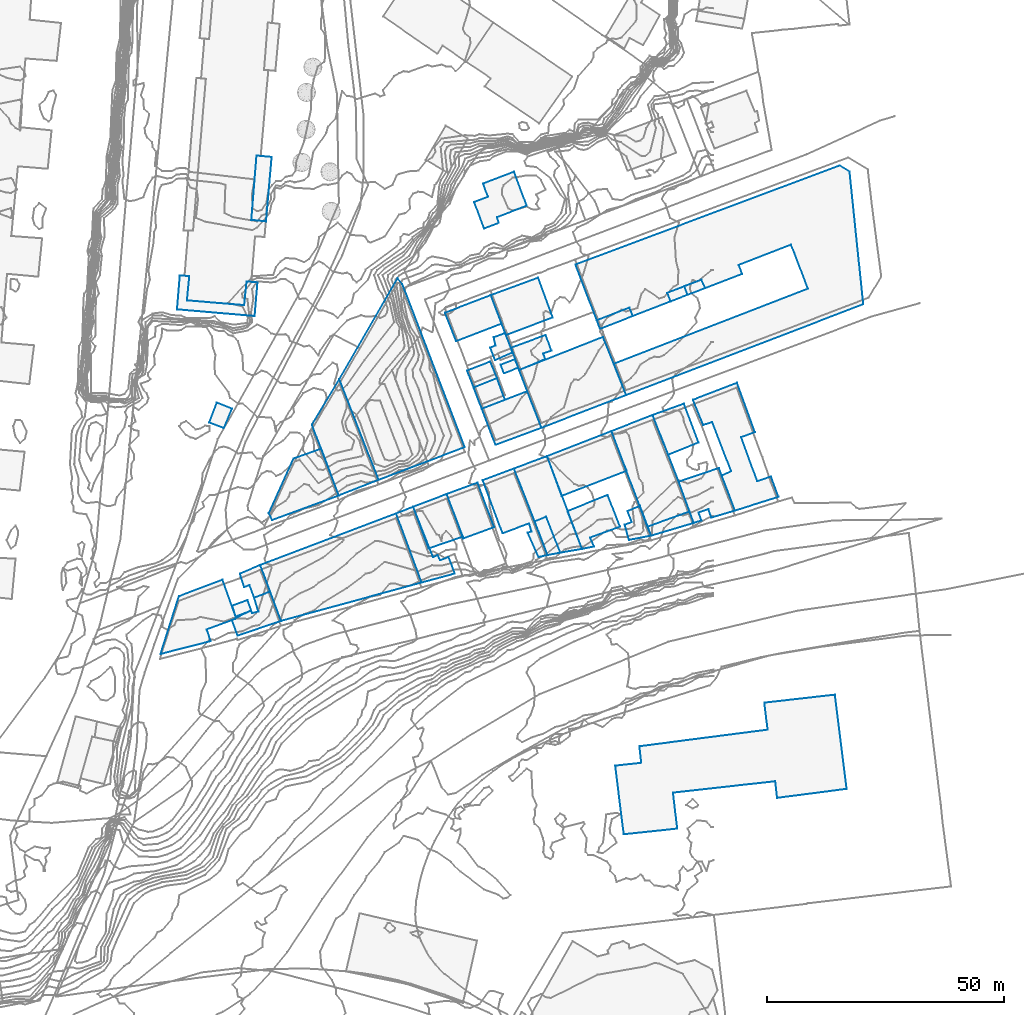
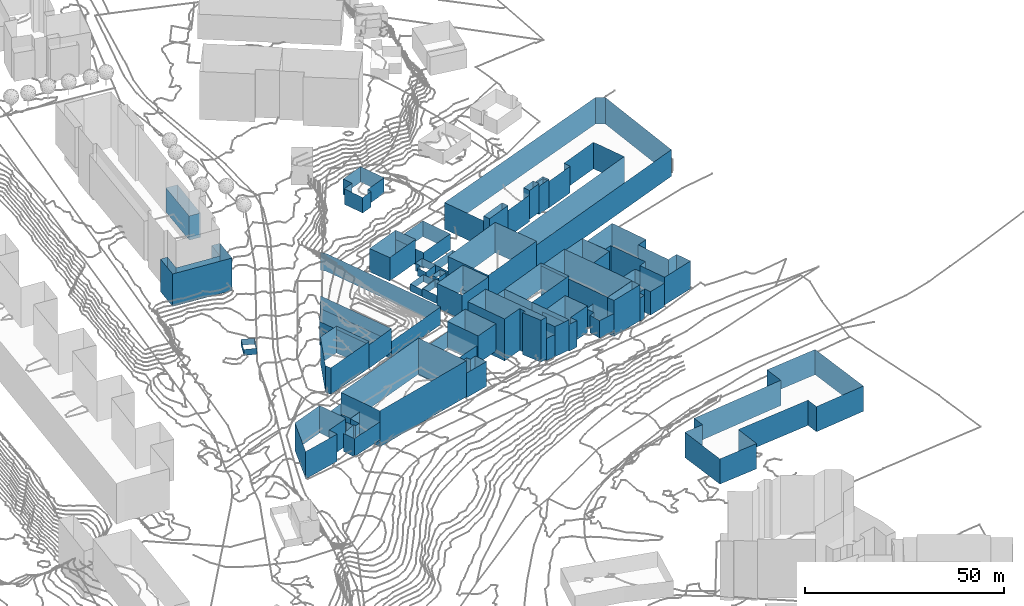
# Not in any storey, part 55 of 419: 40 walls.
"""IFC2X3 model written with IfcOpenShell, lengths in metres."""

from ifc_helpers import new_model, si_unit, frame, origin_with_axes, place, context, subcontext, project, faceted_brep, element, save


model = new_model("IFC2X3")

# Units and contexts
model_context = context("Model", 3, precision=1e-05, world=origin_with_axes())
body_context = subcontext(model_context, "Body", "Model", "MODEL_VIEW")
ifc_project = project(units=[si_unit("AREAUNIT", "SQUARE_METRE"), si_unit("LENGTHUNIT", "METRE")], contexts=[model_context])

# Walls
wall_1_placement = place(None, frame((919.7920204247, 707.8976909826, 81.4396011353), z_axis=(0.0, 0.0, 1.0), x_axis=(1.0, 0.0, 0.0)))
element("IfcWall", 1, at=wall_1_placement, Name="Mur 0", context=body_context, shape_type="Brep", body=[
    faceted_brep([(0.0, 0.0, 7.1603988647), (9.7000000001, 3.7000000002, 7.1603988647), (0.0, 0.0, 0.0), (9.7000000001, 3.7000000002, 0.0), (2.4, -6.0, 7.1603988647), (2.4, -6.0, 0.0), (12.0, -2.2999999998, 7.1603988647), (12.0, -2.2999999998, 0.0)], [[[0, 1, 2]], [[2, 1, 3]], [[4, 0, 5]], [[5, 0, 2]], [[1, 6, 3]], [[3, 6, 7]], [[6, 4, 7]], [[7, 4, 5]]]),
])
wall_2_placement = place(None, frame((874.7920204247, 642.9976909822, 81.5520004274), z_axis=(0.0, 0.0, 1.0), x_axis=(1.0, 0.0, 0.0)))
element("IfcWall", 2, at=wall_2_placement, Name="Mur 0", context=body_context, shape_type="Brep", body=[
    faceted_brep([(8.1000000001, 6.0, 5.5479995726), (10.4, -0.1999999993, 5.5479995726), (8.1000000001, 6.0, 0.0), (10.4, -0.1999999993, 0.0), (4.7000000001, 4.7000000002, 5.5479995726), (4.7000000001, 4.7000000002, 0.0), (5.6000000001, 1.8000000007, 5.5479995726), (5.6000000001, 1.8000000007, 0.0), (4.3, 1.4000000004, 5.5479995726), (4.3, 1.4000000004, 0.0), (4.1000000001, 2.0, 5.5479995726), (4.1000000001, 2.0, 0.0), (0.0, 0.0, 5.5479995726), (0.0, 0.0, 0.0), (1.2000000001, -3.2999999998, 5.5479995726), (1.2000000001, -3.2999999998, 0.0)], [[[0, 1, 2]], [[2, 1, 3]], [[4, 0, 5]], [[5, 0, 2]], [[6, 4, 7]], [[7, 4, 5]], [[8, 6, 9]], [[9, 6, 7]], [[10, 8, 11]], [[11, 8, 9]], [[12, 10, 13]], [[13, 10, 11]], [[1, 14, 3]], [[3, 14, 15]], [[14, 12, 15]], [[15, 12, 13]]]),
])
wall_3_placement = place(None, frame((920.1920204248, 669.5976909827, 80.9935986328), z_axis=(0.0, 0.0, 1.0), x_axis=(1.0, 0.0, 0.0)))
element("IfcWall", 3, at=wall_3_placement, Name="Mur 0", context=body_context, shape_type="Brep", body=[
    faceted_brep([(0.0, 0.0, 8.4064013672), (6.5, 2.3999999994, 8.4064013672), (0.0, 0.0, 0.0), (6.5, 2.3999999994, 0.0), (3.5, -9.4000000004, 8.4064013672), (3.5, -9.4000000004, 0.0), (10.0, -7.0, 8.4064013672), (10.0, -7.0, 0.0)], [[[0, 1, 2]], [[2, 1, 3]], [[4, 0, 5]], [[5, 0, 2]], [[1, 6, 3]], [[3, 6, 7]], [[6, 4, 7]], [[7, 4, 5]]]),
])
wall_4_placement = place(None, frame((927.7920204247, 672.4976909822, 78.1616983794), z_axis=(0.0, 0.0, 1.0), x_axis=(1.0, 0.0, 0.0)))
element("IfcWall", 4, at=wall_4_placement, Name="Mur 0", context=body_context, shape_type="Brep", body=[
    faceted_brep([(0.0, 0.0, 12.8383016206), (6.6000000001, 2.5, 12.8383016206), (0.0, 0.0, 0.0), (6.6000000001, 2.5, 0.0), (4.2000000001, -11.1999999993, 12.8383016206), (4.2000000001, -11.1999999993, 0.0), (9.8, -9.0999999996, 12.8383016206), (9.8, -9.0999999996, 0.0), (10.3, -10.7999999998, 12.8383016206), (10.3, -10.7999999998, 0.0), (9.5, -11.0999999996, 12.8383016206), (9.5, -11.0999999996, 0.0), (11.8, -16.1999999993, 12.8383016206), (11.8, -16.1999999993, 0.0), (13.7000000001, -15.7999999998, 12.8383016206), (13.7000000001, -15.7999999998, 0.0)], [[[0, 1, 2]], [[2, 1, 3]], [[4, 0, 5]], [[5, 0, 2]], [[6, 4, 7]], [[7, 4, 5]], [[8, 6, 9]], [[9, 6, 7]], [[10, 8, 11]], [[11, 8, 9]], [[12, 10, 13]], [[13, 10, 11]], [[1, 14, 3]], [[3, 14, 15]], [[14, 12, 15]], [[15, 12, 13]]]),
])
wall_5_placement = place(None, frame((957.7920204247, 663.0976909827, 76.6620004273), z_axis=(0.0, 0.0, 1.0), x_axis=(1.0, 0.0, 0.0)))
element("IfcWall", 5, at=wall_5_placement, Name="Mur 0", context=body_context, shape_type="Brep", body=[
    faceted_brep([(3.2000000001, 4.0, 5.3379995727), (5.6000000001, -2.2999999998, 5.3379995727), (3.2000000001, 4.0, 0.0), (5.6000000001, -2.2999999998, 0.0), (0.6000000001, 2.8999999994, 5.3379995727), (0.6000000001, 2.8999999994, 0.0), (1.5, 0.5999999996, 5.3379995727), (1.5, 0.5999999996, 0.0), (0.0, 0.0, 5.3379995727), (0.0, 0.0, 0.0), (0.9, -3.2000000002, 5.3379995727), (0.9, -3.2000000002, 0.0)], [[[0, 1, 2]], [[2, 1, 3]], [[4, 0, 5]], [[5, 0, 2]], [[6, 4, 7]], [[7, 4, 5]], [[8, 6, 9]], [[9, 6, 7]], [[1, 10, 3]], [[3, 10, 11]], [[10, 8, 11]], [[11, 8, 9]]]),
])
wall_6_placement = place(None, frame((891.6920204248, 684.2976909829, 83.1860015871), z_axis=(0.0, 0.0, 1.0), x_axis=(1.0, 0.0, 0.0)))
element("IfcWall", 6, at=wall_6_placement, Name="Mur 0", context=body_context, shape_type="Brep", body=[
    faceted_brep([(14.1, -11.7000000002, 7.2139984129), (5.7000000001, -15.0, 7.2139984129), (14.1, -11.7000000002, 0.0), (5.7000000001, -15.0, 0.0), (5.8, 9.5999999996, 7.2139984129), (5.8, 9.5999999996, 0.0), (0.0, 0.0, 7.2139984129), (0.0, 0.0, 0.0)], [[[0, 1, 2]], [[2, 1, 3]], [[4, 0, 5]], [[5, 0, 2]], [[1, 6, 3]], [[3, 6, 7]], [[6, 4, 7]], [[7, 4, 5]]]),
])
wall_7_placement = place(None, frame((882.5920204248, 665.5976909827, 83.25880188), z_axis=(0.0, 0.0, 1.0), x_axis=(1.0, 0.0, 0.0)))
element("IfcWall", 7, at=wall_7_placement, Name="Mur 0", context=body_context, shape_type="Brep", body=[
    faceted_brep([(11.1, 13.5999999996, 8.14119812), (14.8, 3.7000000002, 8.14119812), (11.1, 13.5999999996, 0.0), (14.8, 3.7000000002, 0.0), (5.2, 11.5, 8.14119812), (5.2, 11.5, 0.0), (0.0, 0.0, 8.14119812), (0.0, 0.0, 0.0), (0.7, -1.5, 8.14119812), (0.7, -1.5, 0.0)], [[[0, 1, 2]], [[2, 1, 3]], [[4, 0, 5]], [[5, 0, 2]], [[6, 4, 7]], [[7, 4, 5]], [[1, 8, 3]], [[3, 8, 9]], [[8, 6, 9]], [[9, 6, 7]]]),
])
wall_8_placement = place(None, frame((924.4920204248, 695.6976909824, 81.3057990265), z_axis=(0.0, 0.0, 1.0), x_axis=(1.0, 0.0, 0.0)))
element("IfcWall", 8, at=wall_8_placement, Name="Mur 0", context=body_context, shape_type="Brep", body=[
    faceted_brep([(6.2999999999, -1.5999999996, 2.1942009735), (1.4, -3.5999999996, 2.1942009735), (6.2999999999, -1.5999999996, 0.0), (1.4, -3.5999999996, 0.0), (4.9, 1.9000000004, 2.1942009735), (4.9, 1.9000000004, 0.0), (0.0, 0.0, 2.1942009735), (0.0, 0.0, 0.0)], [[[0, 1, 2]], [[2, 1, 3]], [[4, 0, 5]], [[5, 0, 2]], [[1, 6, 3]], [[3, 6, 7]], [[6, 4, 7]], [[7, 4, 5]]]),
])
wall_9_placement = place(None, frame((933.7920204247, 700.4976909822, 80.5634998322), z_axis=(0.0, 0.0, 1.0), x_axis=(1.0, 0.0, 0.0)))
element("IfcWall", 9, at=wall_9_placement, Name="Mur 0", context=body_context, shape_type="Brep", body=[
    faceted_brep([(0.0, 0.0, 2.9365001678), (7.3, 2.7000000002, 2.9365001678), (0.0, 0.0, 0.0), (7.3, 2.7000000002, 0.0), (1.7000000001, -4.6999999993, 2.9365001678), (1.7000000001, -4.6999999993, 0.0), (7.2000000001, -2.3999999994, 2.9365001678), (7.2000000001, -2.3999999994, 0.0), (6.8, -1.1999999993, 2.9365001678), (6.8, -1.1999999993, 0.0), (8.5, -0.5999999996, 2.9365001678), (8.5, -0.5999999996, 0.0)], [[[0, 1, 2]], [[2, 1, 3]], [[4, 0, 5]], [[5, 0, 2]], [[6, 4, 7]], [[7, 4, 5]], [[8, 6, 9]], [[9, 6, 7]], [[1, 10, 3]], [[3, 10, 11]], [[10, 8, 11]], [[11, 8, 9]]]),
])
wall_10_placement = place(None, frame((947.3920204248, 718.0976909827, 78.6544979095), z_axis=(0.0, 0.0, 1.0), x_axis=(1.0, 0.0, 0.0)))
element("IfcWall", 10, at=wall_10_placement, Name="Mur 0", context=body_context, shape_type="Brep", body=[
    faceted_brep([(4.5, -11.7999999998, 8.1455020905), (0.0, 0.0, 8.1455020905), (4.5, -11.7999999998, 0.0), (0.0, 0.0, 0.0), (11.3999999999, -9.1000000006, 8.1455020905), (11.3999999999, -9.1000000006, 0.0), (12.1, -10.9000000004, 8.1455020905), (12.1, -10.9000000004, 0.0), (20.1, -7.7999999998, 8.1455020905), (20.1, -7.7999999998, 0.0), (19.3999999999, -6.0, 8.1455020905), (19.3999999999, -6.0, 0.0), (26.6, -3.2000000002, 8.1455020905), (26.6, -3.2000000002, 0.0), (27.3999999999, -5.0, 8.1455020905), (27.3999999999, -5.0, 0.0), (35.2, -2.0, 8.1455020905), (35.2, -2.0, 0.0), (34.5, -0.1000000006, 8.1455020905), (34.5, -0.1000000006, 0.0), (45.5, 4.2000000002, 8.1455020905), (45.5, 4.2000000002, 0.0), (46.2999999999, 2.2999999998, 8.1455020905), (46.2999999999, 2.2999999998, 0.0), (49.1, -5.1000000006, 8.1455020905), (49.1, -5.1000000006, 0.0), (8.1, -21.0, 8.1455020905), (8.1, -21.0, 0.0), (10.7, -27.6000000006, 8.1455020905), (10.7, -27.6000000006, 0.0), (60.7999999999, -8.4000000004, 8.1455020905), (60.7999999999, -8.4000000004, 0.0), (57.8999999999, 19.5999999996, 8.1455020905), (57.8999999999, 19.5999999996, 0.0), (55.7999999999, 20.8999999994, 8.1455020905), (55.7999999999, 20.8999999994, 0.0)], [[[0, 1, 2]], [[2, 1, 3]], [[4, 0, 5]], [[5, 0, 2]], [[6, 4, 7]], [[7, 4, 5]], [[8, 6, 9]], [[9, 6, 7]], [[10, 8, 11]], [[11, 8, 9]], [[12, 10, 13]], [[13, 10, 11]], [[14, 12, 15]], [[15, 12, 13]], [[16, 14, 17]], [[17, 14, 15]], [[18, 16, 19]], [[19, 16, 17]], [[20, 18, 21]], [[21, 18, 19]], [[22, 20, 23]], [[23, 20, 21]], [[24, 22, 25]], [[25, 22, 23]], [[26, 24, 27]], [[27, 24, 25]], [[28, 26, 29]], [[29, 26, 27]], [[30, 28, 31]], [[31, 28, 29]], [[32, 30, 33]], [[33, 30, 31]], [[1, 34, 3]], [[3, 34, 35]], [[34, 32, 35]], [[35, 32, 33]]]),
])
wall_11_placement = place(None, frame((880.7920204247, 654.5976909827, 79.4694980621), z_axis=(0.0, 0.0, 1.0), x_axis=(1.0, 0.0, 0.0)))
element("IfcWall", 11, at=wall_11_placement, Name="Mur 0", context=body_context, shape_type="Brep", body=[
    faceted_brep([(28.7000000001, 10.8999999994, 11.0305019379), (34.1000000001, -3.7000000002, 11.0305019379), (28.7000000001, 10.8999999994, 0.0), (34.1000000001, -3.7000000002, 0.0), (0.0, 0.0, 11.0305019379), (0.0, 0.0, 0.0), (4.4, -11.7999999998, 11.0305019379), (4.4, -11.7999999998, 0.0)], [[[0, 1, 2]], [[2, 1, 3]], [[4, 0, 5]], [[5, 0, 2]], [[1, 6, 3]], [[3, 6, 7]], [[6, 4, 7]], [[7, 4, 5]]]),
])
wall_12_placement = place(None, frame((963.6920204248, 686.2976909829, 77.7188002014), z_axis=(0.0, 0.0, 1.0), x_axis=(1.0, 0.0, 0.0)))
element("IfcWall", 12, at=wall_12_placement, Name="Mur 0", context=body_context, shape_type="Brep", body=[
    faceted_brep([(0.0, 0.0, 7.8811997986), (6.6, 2.3999999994, 7.8811997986), (0.0, 0.0, 0.0), (6.6, 2.3999999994, 0.0), (3.3, -8.4000000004, 7.8811997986), (3.3, -8.4000000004, 0.0), (9.7000000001, -5.8000000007, 7.8811997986), (9.7000000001, -5.8000000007, 0.0)], [[[0, 1, 2]], [[2, 1, 3]], [[4, 0, 5]], [[5, 0, 2]], [[1, 6, 3]], [[3, 6, 7]], [[6, 4, 7]], [[7, 4, 5]]]),
])
wall_13_placement = place(None, frame((970.3920204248, 713.4976909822, 78.7406013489), z_axis=(0.0, 0.0, 1.0), x_axis=(1.0, 0.0, 0.0)))
element("IfcWall", 13, at=wall_13_placement, Name="Mur 0", context=body_context, shape_type="Brep", body=[
    faceted_brep([(0.7, -1.7999999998, 8.6593986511), (0.0, 0.0, 8.6593986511), (0.7, -1.7999999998, 0.0), (0.0, 0.0, 0.0), (4.3999999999, -0.3999999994, 8.6593986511), (4.3999999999, -0.3999999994, 0.0), (3.6, 1.4000000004, 8.6593986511), (3.6, 1.4000000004, 0.0)], [[[0, 1, 2]], [[2, 1, 3]], [[4, 0, 5]], [[5, 0, 2]], [[1, 6, 3]], [[3, 6, 7]], [[6, 4, 7]], [[7, 4, 5]]]),
])
wall_14_placement = place(None, frame((929.3920204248, 700.4976909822, 81.3559997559), z_axis=(0.0, 0.0, 1.0), x_axis=(1.0, 0.0, 0.0)))
element("IfcWall", 14, at=wall_14_placement, Name="Mur 0", context=body_context, shape_type="Brep", body=[
    faceted_brep([(3.1, 3.1000000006, 2.3440002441), (3.2999999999, 2.7000000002, 2.3440002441), (3.1, 3.1000000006, 0.0), (3.2999999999, 2.7000000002, 0.0), (0.7, 2.2000000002, 2.3440002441), (0.7, 2.2000000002, 0.0), (1.1, 0.5, 2.3440002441), (1.1, 0.5, 0.0), (0.0, 0.0, 2.3440002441), (0.0, 0.0, 0.0), (1.0, -2.5999999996, 2.3440002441), (1.0, -2.5999999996, 0.0), (4.7, -1.0, 2.3440002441), (4.7, -1.0, 0.0)], [[[0, 1, 2]], [[2, 1, 3]], [[4, 0, 5]], [[5, 0, 2]], [[6, 4, 7]], [[7, 4, 5]], [[8, 6, 9]], [[9, 6, 7]], [[10, 8, 11]], [[11, 8, 9]], [[1, 12, 3]], [[3, 12, 13]], [[12, 10, 13]], [[13, 10, 11]]]),
])
wall_15_placement = place(None, frame((913.0920204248, 666.8976909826, 81.3671994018), z_axis=(0.0, 0.0, 1.0), x_axis=(1.0, 0.0, 0.0)))
element("IfcWall", 15, at=wall_15_placement, Name="Mur 0", context=body_context, shape_type="Brep", body=[
    faceted_brep([(3.3, -8.7999999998, 4.8328005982), (0.0, 0.0, 4.8328005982), (3.3, -8.7999999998, 0.0), (0.0, 0.0, 0.0), (10.5, -6.2999999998, 4.8328005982), (10.5, -6.2999999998, 0.0), (7.1, 2.7000000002, 4.8328005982), (7.1, 2.7000000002, 0.0)], [[[0, 1, 2]], [[2, 1, 3]], [[4, 0, 5]], [[5, 0, 2]], [[1, 6, 3]], [[3, 6, 7]], [[6, 4, 7]], [[7, 4, 5]]]),
])
wall_16_placement = place(None, frame((966.7920204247, 712.0976909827, 79.3546003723), z_axis=(0.0, 0.0, 1.0), x_axis=(1.0, 0.0, 0.0)))
element("IfcWall", 16, at=wall_16_placement, Name="Mur 0", context=body_context, shape_type="Brep", body=[
    faceted_brep([(0.7000000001, -1.7999999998, 8.8453996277), (0.0, 0.0, 8.8453996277), (0.7000000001, -1.7999999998, 0.0), (0.0, 0.0, 0.0), (4.3, -0.4000000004, 8.8453996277), (4.3, -0.4000000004, 0.0), (3.6000000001, 1.3999999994, 8.8453996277), (3.6000000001, 1.3999999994, 0.0)], [[[0, 1, 2]], [[2, 1, 3]], [[4, 0, 5]], [[5, 0, 2]], [[1, 6, 3]], [[3, 6, 7]], [[6, 4, 7]], [[7, 4, 5]]]),
])
wall_17_placement = place(None, frame((931.5920204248, 696.8976909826, 81.344001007), z_axis=(0.0, 0.0, 1.0), x_axis=(1.0, 0.0, 0.0)))
element("IfcWall", 17, at=wall_17_placement, Name="Mur 0", context=body_context, shape_type="Brep", body=[
    faceted_brep([(3.0, 1.2000000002, 1.555998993), (3.7, -0.5999999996, 1.555998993), (3.0, 1.2000000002, 0.0), (3.7, -0.5999999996, 0.0), (0.0, 0.0, 1.555998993), (0.0, 0.0, 0.0), (0.7, -1.7999999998, 1.555998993), (0.7, -1.7999999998, 0.0)], [[[0, 1, 2]], [[2, 1, 3]], [[4, 0, 5]], [[5, 0, 2]], [[1, 6, 3]], [[3, 6, 7]], [[6, 4, 7]], [[7, 4, 5]]]),
])
wall_18_placement = place(None, frame((863.1920204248, 708.5976909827, 90.2260009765), z_axis=(0.0, 0.0, 1.0), x_axis=(1.0, 0.0, 0.0)))
element("IfcWall", 18, at=wall_18_placement, Name="Mur 0", context=body_context, shape_type="Brep", body=[
    faceted_brep([(0.6, 7.0999999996, 9.9739990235), (1.6, 7.0999999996, 9.9739990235), (0.6, 7.0999999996, 0.0), (1.6, 7.0999999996, 0.0), (0.0, 0.0, 9.9739990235), (0.0, 0.0, 0.0), (16.4, -1.4000000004, 9.9739990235), (16.4, -1.4000000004, 0.0), (17.0, 5.7000000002, 9.9739990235), (17.0, 5.7000000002, 0.0), (14.7000000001, 5.8999999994, 9.9739990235), (14.7000000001, 5.8999999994, 0.0), (14.2000000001, 0.8999999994, 9.9739990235), (14.2000000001, 0.8999999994, 0.0), (2.1, 1.8999999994, 9.9739990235), (2.1, 1.8999999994, 0.0), (2.6, 7.0, 9.9739990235), (2.6, 7.0, 0.0)], [[[0, 1, 2]], [[2, 1, 3]], [[4, 0, 5]], [[5, 0, 2]], [[6, 4, 7]], [[7, 4, 5]], [[8, 6, 9]], [[9, 6, 7]], [[10, 8, 11]], [[11, 8, 9]], [[12, 10, 13]], [[13, 10, 11]], [[14, 12, 15]], [[15, 12, 13]], [[1, 16, 3]], [[3, 16, 17]], [[16, 14, 17]], [[17, 14, 15]]]),
])
wall_19_placement = place(None, frame((876.4920204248, 652.7976909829, 83.2692002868), z_axis=(0.0, 0.0, 1.0), x_axis=(1.0, 0.0, 0.0)))
element("IfcWall", 19, at=wall_19_placement, Name="Mur 0", context=body_context, shape_type="Brep", body=[
    faceted_brep([(4.2999999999, 1.7999999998, 3.9307997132), (6.4, -3.8000000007, 3.9307997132), (4.2999999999, 1.7999999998, 0.0), (6.4, -3.8000000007, 0.0), (0.0, 0.0, 3.9307997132), (0.0, 0.0, 0.0), (0.9, -2.9000000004, 3.9307997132), (0.9, -2.9000000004, 0.0), (2.0, -2.4000000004, 3.9307997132), (2.0, -2.4000000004, 0.0), (3.0, -5.1000000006, 3.9307997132), (3.0, -5.1000000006, 0.0)], [[[0, 1, 2]], [[2, 1, 3]], [[4, 0, 5]], [[5, 0, 2]], [[6, 4, 7]], [[7, 4, 5]], [[8, 6, 9]], [[9, 6, 7]], [[1, 10, 3]], [[3, 10, 11]], [[10, 8, 11]], [[11, 8, 9]]]),
])
wall_20_placement = place(None, frame((951.8920204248, 706.2976909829, 79.7466007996), z_axis=(0.0, 0.0, 1.0), x_axis=(1.0, 0.0, 0.0)))
element("IfcWall", 20, at=wall_20_placement, Name="Mur 0", context=body_context, shape_type="Brep", body=[
    faceted_brep([(0.7, -1.8000000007, 8.5533992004), (0.0, 0.0, 8.5533992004), (0.7, -1.8000000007, 0.0), (0.0, 0.0, 0.0), (7.6, 0.8999999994, 8.5533992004), (7.6, 0.8999999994, 0.0), (6.8999999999, 2.6999999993, 8.5533992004), (6.8999999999, 2.6999999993, 0.0)], [[[0, 1, 2]], [[2, 1, 3]], [[4, 0, 5]], [[5, 0, 2]], [[1, 6, 3]], [[3, 6, 7]], [[6, 4, 7]], [[7, 4, 5]]]),
])
wall_21_placement = place(None, frame((869.9920204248, 684.6976909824, 87.3539981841), z_axis=(0.0, 0.0, 1.0), x_axis=(1.0, 0.0, 0.0)))
element("IfcWall", 21, at=wall_21_placement, Name="Mur 0", context=body_context, shape_type="Brep", body=[
    faceted_brep([(0.0, 0.0, 1.8460018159), (1.6, 4.2000000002, 1.8460018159), (0.0, 0.0, 0.0), (1.6, 4.2000000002, 0.0), (3.1, -1.2000000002, 1.8460018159), (3.1, -1.2000000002, 0.0), (4.7999999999, 2.9000000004, 1.8460018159), (4.7999999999, 2.9000000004, 0.0)], [[[0, 1, 2]], [[2, 1, 3]], [[4, 0, 5]], [[5, 0, 2]], [[1, 6, 3]], [[3, 6, 7]], [[6, 4, 7]], [[7, 4, 5]]]),
])
wall_22_placement = place(None, frame((938.7920204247, 663.7976909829, 77.6844009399), z_axis=(0.0, 0.0, 1.0), x_axis=(1.0, 0.0, 0.0)))
element("IfcWall", 22, at=wall_22_placement, Name="Mur 0", context=body_context, shape_type="Brep", body=[
    faceted_brep([(2.4, 1.0, 6.8155990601), (5.4, -6.6000000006, 6.8155990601), (2.4, 1.0, 0.0), (5.4, -6.6000000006, 0.0), (0.0, 0.0, 6.8155990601), (0.0, 0.0, 0.0), (2.7000000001, -7.1000000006, 6.8155990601), (2.7000000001, -7.1000000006, 0.0)], [[[0, 1, 2]], [[2, 1, 3]], [[4, 0, 5]], [[5, 0, 2]], [[1, 6, 3]], [[3, 6, 7]], [[6, 4, 7]], [[7, 4, 5]]]),
])
wall_23_placement = place(None, frame((962.5920204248, 662.6976909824, 74.9748030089), z_axis=(0.0, 0.0, 1.0), x_axis=(1.0, 0.0, 0.0)))
element("IfcWall", 23, at=wall_23_placement, Name="Mur 0", context=body_context, shape_type="Brep", body=[
    faceted_brep([(0.0, 0.0, 11.0251969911), (8.9, 3.2000000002, 11.0251969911), (0.0, 0.0, 0.0), (8.9, 3.2000000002, 0.0), (0.8, -1.8999999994, 11.0251969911), (0.8, -1.8999999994, 0.0), (9.8, 0.7999999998, 11.0251969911), (9.8, 0.7999999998, 0.0)], [[[0, 1, 2]], [[2, 1, 3]], [[4, 0, 5]], [[5, 0, 2]], [[1, 6, 3]], [[3, 6, 7]], [[6, 4, 7]], [[7, 4, 5]]]),
])
wall_24_placement = place(None, frame((909.4920204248, 665.4976909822, 79.1334014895), z_axis=(0.0, 0.0, 1.0), x_axis=(1.0, 0.0, 0.0)))
element("IfcWall", 24, at=wall_24_placement, Name="Mur 0", context=body_context, shape_type="Brep", body=[
    faceted_brep([(5.4, -14.5999999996, 7.5665985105), (0.0, 0.0, 7.5665985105), (5.4, -14.5999999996, 0.0), (0.0, 0.0, 0.0), (12.4, -12.6999999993, 7.5665985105), (12.4, -12.6999999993, 0.0), (11.1, -9.1999999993, 7.5665985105), (11.1, -9.1999999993, 0.0), (9.2999999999, -9.8999999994, 7.5665985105), (9.2999999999, -9.8999999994, 0.0), (8.7999999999, -8.7999999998, 7.5665985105), (8.7999999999, -8.7999999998, 0.0), (7.7999999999, -9.1999999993, 7.5665985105), (7.7999999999, -9.1999999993, 0.0), (3.6, 1.4000000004, 7.5665985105), (3.6, 1.4000000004, 0.0)], [[[0, 1, 2]], [[2, 1, 3]], [[4, 0, 5]], [[5, 0, 2]], [[6, 4, 7]], [[7, 4, 5]], [[8, 6, 9]], [[9, 6, 7]], [[10, 8, 11]], [[11, 8, 9]], [[12, 10, 13]], [[13, 10, 11]], [[1, 14, 3]], [[3, 14, 15]], [[14, 12, 15]], [[15, 12, 13]]]),
])
wall_25_placement = place(None, frame((874.8920204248, 645.9976909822, 83.9579986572), z_axis=(0.0, 0.0, 1.0), x_axis=(1.0, 0.0, 0.0)))
element("IfcWall", 25, at=wall_25_placement, Name="Mur 0", context=body_context, shape_type="Brep", body=[
    faceted_brep([(3.2, 1.2000000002, 2.8420013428), (4.0, -1.0, 2.8420013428), (3.2, 1.2000000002, 0.0), (4.0, -1.0, 0.0), (0.0, 0.0, 2.8420013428), (0.0, 0.0, 0.0), (0.7, -2.2999999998, 2.8420013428), (0.7, -2.2999999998, 0.0)], [[[0, 1, 2]], [[2, 1, 3]], [[4, 0, 5]], [[5, 0, 2]], [[1, 6, 3]], [[3, 6, 7]], [[6, 4, 7]], [[7, 4, 5]]]),
])
wall_26_placement = place(None, frame((954.9920204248, 682.8976909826, 75.8620010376), z_axis=(0.0, 0.0, 1.0), x_axis=(1.0, 0.0, 0.0)))
element("IfcWall", 26, at=wall_26_placement, Name="Mur 0", context=body_context, shape_type="Brep", body=[
    faceted_brep([(8.7, 3.4000000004, 10.2379989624), (14.2, -10.7000000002, 10.2379989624), (8.7, 3.4000000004, 0.0), (14.2, -10.7000000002, 0.0), (0.0, 0.0, 10.2379989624), (0.0, 0.0, 0.0), (7.6, -20.2000000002, 10.2379989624), (7.6, -20.2000000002, 0.0), (16.5, -17.0, 10.2379989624), (16.5, -17.0, 0.0)], [[[0, 1, 2]], [[2, 1, 3]], [[4, 0, 5]], [[5, 0, 2]], [[6, 4, 7]], [[7, 4, 5]], [[1, 8, 3]], [[3, 8, 9]], [[8, 6, 9]], [[9, 6, 7]]]),
])
wall_27_placement = place(None, frame((925.9920204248, 731.2976909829, 85.7525016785), z_axis=(0.0, 0.0, 1.0), x_axis=(1.0, 0.0, 0.0)))
element("IfcWall", 27, at=wall_27_placement, Name="Mur 0", context=body_context, shape_type="Brep", body=[
    faceted_brep([(2.9, 1.0999999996, 4.7474983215), (1.9, 3.8999999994, 4.7474983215), (2.9, 1.0999999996, 0.0), (1.9, 3.8999999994, 0.0), (0.0, 0.0, 4.7474983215), (0.0, 0.0, 0.0), (2.1, -5.6000000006, 4.7474983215), (2.1, -5.6000000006, 0.0), (5.2, -4.4000000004, 4.7474983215), (5.2, -4.4000000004, 0.0), (4.7999999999, -3.2000000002, 4.7474983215), (4.7999999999, -3.2000000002, 0.0), (11.1, -0.8000000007, 4.7474983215), (11.1, -0.8000000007, 0.0), (8.4, 6.3999999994, 4.7474983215), (8.4, 6.3999999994, 0.0)], [[[0, 1, 2]], [[2, 1, 3]], [[4, 0, 5]], [[5, 0, 2]], [[6, 4, 7]], [[7, 4, 5]], [[8, 6, 9]], [[9, 6, 7]], [[10, 8, 11]], [[11, 8, 9]], [[12, 10, 13]], [[13, 10, 11]], [[1, 14, 3]], [[3, 14, 15]], [[14, 12, 15]], [[15, 12, 13]]]),
])
wall_28_placement = place(None, frame((935.4920204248, 695.7976909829, 78.6544979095), z_axis=(0.0, 0.0, 1.0), x_axis=(1.0, 0.0, 0.0)))
element("IfcWall", 28, at=wall_28_placement, Name="Mur 0", context=body_context, shape_type="Brep", body=[
    faceted_brep([(0.0, 0.0, 9.3455020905), (17.7, 7.0, 9.3455020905), (0.0, 0.0, 0.0), (17.7, 7.0, 0.0), (4.7, -12.2000000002, 9.3455020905), (4.7, -12.2000000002, 0.0), (22.6, -5.3000000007, 9.3455020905), (22.6, -5.3000000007, 0.0)], [[[0, 1, 2]], [[2, 1, 3]], [[4, 0, 5]], [[5, 0, 2]], [[1, 6, 3]], [[3, 6, 7]], [[6, 4, 7]], [[7, 4, 5]]]),
])
wall_29_placement = place(None, frame((955.7920204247, 612.1976909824, 70.0599998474), z_axis=(0.0, 0.0, 1.0), x_axis=(1.0, 0.0, 0.0)))
element("IfcWall", 29, at=wall_29_placement, Name="Mur 0", context=body_context, shape_type="Brep", body=[
    faceted_brep([(48.9, -4.8999999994, 7.7400001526), (38.1000000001, -6.2999999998, 7.7400001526), (48.9, -4.8999999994, 0.0), (38.1000000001, -6.2999999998, 0.0), (46.4, 15.0, 7.7400001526), (46.4, 15.0, 0.0), (31.5, 13.2999999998, 7.7400001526), (31.5, 13.2999999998, 0.0), (32.2000000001, 7.6000000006, 7.7400001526), (32.2000000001, 7.6000000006, 0.0), (5.1000000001, 4.1000000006, 7.7400001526), (5.1000000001, 4.1000000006, 0.0), (5.5, 0.6000000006, 7.7400001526), (5.5, 0.6000000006, 0.0), (0.0, 0.0, 7.7400001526), (0.0, 0.0, 0.0), (1.8, -14.5, 7.7400001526), (1.8, -14.5, 0.0), (13.1000000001, -13.2999999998, 7.7400001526), (13.1000000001, -13.2999999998, 0.0), (12.2000000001, -5.7000000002, 7.7400001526), (12.2000000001, -5.7000000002, 0.0), (33.8, -3.2999999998, 7.7400001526), (33.8, -3.2999999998, 0.0), (34.2000000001, -6.7999999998, 7.7400001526), (34.2000000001, -6.7999999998, 0.0)], [[[0, 1, 2]], [[2, 1, 3]], [[4, 0, 5]], [[5, 0, 2]], [[6, 4, 7]], [[7, 4, 5]], [[8, 6, 9]], [[9, 6, 7]], [[10, 8, 11]], [[11, 8, 9]], [[12, 10, 13]], [[13, 10, 11]], [[14, 12, 15]], [[15, 12, 13]], [[16, 14, 17]], [[17, 14, 15]], [[18, 16, 19]], [[19, 16, 17]], [[20, 18, 21]], [[21, 18, 19]], [[22, 20, 23]], [[23, 20, 21]], [[1, 24, 3]], [[3, 24, 25]], [[24, 22, 25]], [[25, 22, 23]]]),
])
wall_30_placement = place(None, frame((941.3920204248, 677.5976909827, 78.9970001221), z_axis=(0.0, 0.0, 1.0), x_axis=(1.0, 0.0, 0.0)))
element("IfcWall", 30, at=wall_30_placement, Name="Mur 0", context=body_context, shape_type="Brep", body=[
    faceted_brep([(0.0, 0.0, 8.0029998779), (13.6, 5.2999999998, 8.0029998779), (0.0, 0.0, 0.0), (13.6, 5.2999999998, 0.0), (3.1, -8.4000000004, 8.0029998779), (3.1, -8.4000000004, 0.0), (16.7999999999, -3.1000000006, 8.0029998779), (16.7999999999, -3.1000000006, 0.0)], [[[0, 1, 2]], [[2, 1, 3]], [[4, 0, 5]], [[5, 0, 2]], [[1, 6, 3]], [[3, 6, 7]], [[6, 4, 7]], [[7, 4, 5]]]),
])
wall_31_placement = place(None, frame((878.8920204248, 727.4976909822, 93.5763989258), z_axis=(0.0, 0.0, 1.0), x_axis=(1.0, 0.0, 0.0)))
element("IfcWall", 31, at=wall_31_placement, Name="Mur 0", context=body_context, shape_type="Brep", body=[
    faceted_brep([(4.2999999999, 13.3000000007, 7.4236010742), (3.1, -0.2999999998, 7.4236010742), (4.2999999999, 13.3000000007, 0.0), (3.1, -0.2999999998, 0.0), (1.1, 13.6000000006, 7.4236010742), (1.1, 13.6000000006, 0.0), (0.0, 0.0, 7.4236010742), (0.0, 0.0, 0.0)], [[[0, 1, 2]], [[2, 1, 3]], [[4, 0, 5]], [[5, 0, 2]], [[1, 6, 3]], [[3, 6, 7]], [[6, 4, 7]], [[7, 4, 5]]]),
])
wall_32_placement = place(None, frame((859.6920204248, 635.7976909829, 82.8152991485), z_axis=(0.0, 0.0, 1.0), x_axis=(1.0, 0.0, 0.0)))
element("IfcWall", 32, at=wall_32_placement, Name="Mur 0", context=body_context, shape_type="Brep", body=[
    faceted_brep([(9.8, 5.1999999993, 8.3847008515), (10.6, 2.6999999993, 8.3847008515), (9.8, 5.1999999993, 0.0), (10.6, 2.6999999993, 0.0), (15.8, 7.3999999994, 8.3847008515), (15.8, 7.3999999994, 0.0), (15.9, 7.8999999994, 8.3847008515), (15.9, 7.8999999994, 0.0), (13.1, 15.6999999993, 8.3847008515), (13.1, 15.6999999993, 0.0), (3.9, 12.1999999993, 8.3847008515), (3.9, 12.1999999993, 0.0), (0.0, 0.0, 8.3847008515), (0.0, 0.0, 0.0)], [[[0, 1, 2]], [[2, 1, 3]], [[4, 0, 5]], [[5, 0, 2]], [[6, 4, 7]], [[7, 4, 5]], [[8, 6, 9]], [[9, 6, 7]], [[10, 8, 11]], [[11, 8, 9]], [[1, 12, 3]], [[3, 12, 13]], [[12, 10, 13]], [[13, 10, 11]]]),
])
wall_33_placement = place(None, frame((934.3920204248, 674.9976909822, 77.6424002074), z_axis=(0.0, 0.0, 1.0), x_axis=(1.0, 0.0, 0.0)))
element("IfcWall", 33, at=wall_33_placement, Name="Mur 0", context=body_context, shape_type="Brep", body=[
    faceted_brep([(0.0, 0.0, 9.2575997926), (7.0, 2.6000000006, 9.2575997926), (0.0, 0.0, 0.0), (7.0, 2.6000000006, 0.0), (4.3999999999, -11.1999999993, 9.2575997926), (4.3999999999, -11.1999999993, 0.0), (6.7999999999, -10.1999999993, 9.2575997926), (6.7999999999, -10.1999999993, 0.0), (9.7999999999, -17.7999999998, 9.2575997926), (9.7999999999, -17.7999999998, 0.0), (14.3999999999, -17.0, 9.2575997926), (14.3999999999, -17.0, 0.0)], [[[0, 1, 2]], [[2, 1, 3]], [[4, 0, 5]], [[5, 0, 2]], [[6, 4, 7]], [[7, 4, 5]], [[8, 6, 9]], [[9, 6, 7]], [[1, 10, 3]], [[3, 10, 11]], [[10, 8, 11]], [[11, 8, 9]]]),
])
wall_34_placement = place(None, frame((969.1920204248, 672.1976909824, 74.7240036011), z_axis=(0.0, 0.0, 1.0), x_axis=(1.0, 0.0, 0.0)))
element("IfcWall", 34, at=wall_34_placement, Name="Mur 0", context=body_context, shape_type="Brep", body=[
    faceted_brep([(8.5, 2.9000000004, 7.1759963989), (11.9, -6.0999999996, 7.1759963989), (8.5, 2.9000000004, 0.0), (11.9, -6.0999999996, 0.0), (0.0, 0.0, 7.1759963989), (0.0, 0.0, 0.0), (3.2000000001, -8.7000000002, 7.1759963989), (3.2000000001, -8.7000000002, 0.0), (4.8, -8.2000000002, 7.1759963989), (4.8, -8.2000000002, 0.0), (4.2000000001, -6.5, 7.1759963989), (4.2000000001, -6.5, 0.0), (6.3, -5.7999999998, 7.1759963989), (6.3, -5.7999999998, 0.0), (6.9, -7.5999999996, 7.1759963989), (6.9, -7.5999999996, 0.0)], [[[0, 1, 2]], [[2, 1, 3]], [[4, 0, 5]], [[5, 0, 2]], [[6, 4, 7]], [[7, 4, 5]], [[8, 6, 9]], [[9, 6, 7]], [[10, 8, 11]], [[11, 8, 9]], [[12, 10, 13]], [[13, 10, 11]], [[1, 14, 3]], [[3, 14, 15]], [[14, 12, 15]], [[15, 12, 13]]]),
])
wall_35_placement = place(None, frame((972.1920204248, 689.4976909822, 75.197001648), z_axis=(0.0, 0.0, 1.0), x_axis=(1.0, 0.0, 0.0)))
element("IfcWall", 35, at=wall_35_placement, Name="Mur 0", context=body_context, shape_type="Brep", body=[
    faceted_brep([(0.0, 0.0, 8.502998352), (9.3, 3.6000000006, 8.502998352), (0.0, 0.0, 0.0), (9.3, 3.6000000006, 0.0), (2.2000000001, -5.2999999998, 8.502998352), (2.2000000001, -5.2999999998, 0.0), (4.1, -4.6999999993, 8.502998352), (4.1, -4.6999999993, 0.0), (8.1, -15.0999999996, 8.502998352), (8.1, -15.0999999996, 0.0), (6.1, -16.0, 8.502998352), (6.1, -16.0, 0.0), (8.9, -23.3999999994, 8.502998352), (8.9, -23.3999999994, 0.0), (18.1, -20.5, 8.502998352), (18.1, -20.5, 0.0), (16.5, -16.1999999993, 8.502998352), (16.5, -16.1999999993, 0.0), (13.6, -17.1999999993, 8.502998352), (13.6, -17.1999999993, 0.0), (10.2000000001, -7.8999999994, 8.502998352), (10.2000000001, -7.8999999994, 0.0), (13.1, -6.7999999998, 8.502998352), (13.1, -6.7999999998, 0.0)], [[[0, 1, 2]], [[2, 1, 3]], [[4, 0, 5]], [[5, 0, 2]], [[6, 4, 7]], [[7, 4, 5]], [[8, 6, 9]], [[9, 6, 7]], [[10, 8, 11]], [[11, 8, 9]], [[12, 10, 13]], [[13, 10, 11]], [[14, 12, 15]], [[15, 12, 13]], [[16, 14, 17]], [[17, 14, 15]], [[18, 16, 19]], [[19, 16, 17]], [[20, 18, 21]], [[21, 18, 19]], [[1, 22, 3]], [[3, 22, 23]], [[22, 20, 23]], [[23, 20, 21]]]),
])
wall_36_placement = place(None, frame((945.6920204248, 665.9976909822, 77.320702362), z_axis=(0.0, 0.0, 1.0), x_axis=(1.0, 0.0, 0.0)))
element("IfcWall", 36, at=wall_36_placement, Name="Mur 0", context=body_context, shape_type="Brep", body=[
    faceted_brep([(4.8, -5.5999999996, 8.179297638), (5.6, -7.5, 8.179297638), (4.8, -5.5999999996, 0.0), (5.6, -7.5, 0.0), (11.1, -3.2999999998, 8.179297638), (11.1, -3.2999999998, 0.0), (8.5, 3.4000000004, 8.179297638), (8.5, 3.4000000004, 0.0), (0.0, 0.0, 8.179297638), (0.0, 0.0, 0.0), (3.1, -8.0, 8.179297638), (3.1, -8.0, 0.0)], [[[0, 1, 2]], [[2, 1, 3]], [[4, 0, 5]], [[5, 0, 2]], [[6, 4, 7]], [[7, 4, 5]], [[8, 6, 9]], [[9, 6, 7]], [[1, 10, 3]], [[3, 10, 11]], [[10, 8, 11]], [[11, 8, 9]]]),
])
wall_37_placement = place(None, frame((897.4920204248, 693.8976909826, 81.0530003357), z_axis=(0.0, 0.0, 1.0), x_axis=(1.0, 0.0, 0.0)))
element("IfcWall", 37, at=wall_37_placement, Name="Mur 0", context=body_context, shape_type="Brep", body=[
    faceted_brep([(26.5, -14.4000000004, 5.4469996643), (8.2999999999, -21.2999999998, 5.4469996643), (26.5, -14.4000000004, 0.0), (8.2999999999, -21.2999999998, 0.0), (13.2999999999, 20.0999999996, 5.4469996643), (13.2999999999, 20.0999999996, 0.0), (12.2999999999, 21.2999999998, 5.4469996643), (12.2999999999, 21.2999999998, 0.0), (0.0, 0.0, 5.4469996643), (0.0, 0.0, 0.0)], [[[0, 1, 2]], [[2, 1, 3]], [[4, 0, 5]], [[5, 0, 2]], [[6, 4, 7]], [[7, 4, 5]], [[1, 8, 3]], [[3, 8, 9]], [[8, 6, 9]], [[9, 6, 7]]]),
])
wall_38_placement = place(None, frame((925.8920204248, 692.0976909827, 81.242002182), z_axis=(0.0, 0.0, 1.0), x_axis=(1.0, 0.0, 0.0)))
element("IfcWall", 38, at=wall_38_placement, Name="Mur 0", context=body_context, shape_type="Brep", body=[
    faceted_brep([(6.6, -2.6000000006, 2.557997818), (1.7, -4.5, 2.557997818), (6.6, -2.6000000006, 0.0), (1.7, -4.5, 0.0), (4.8999999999, 2.0, 2.557997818), (4.8999999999, 2.0, 0.0), (0.0, 0.0, 2.557997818), (0.0, 0.0, 0.0)], [[[0, 1, 2]], [[2, 1, 3]], [[4, 0, 5]], [[5, 0, 2]], [[1, 6, 3]], [[3, 6, 7]], [[6, 4, 7]], [[7, 4, 5]]]),
])
wall_39_placement = place(None, frame((927.5920204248, 687.5976909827, 79.9844006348), z_axis=(0.0, 0.0, 1.0), x_axis=(1.0, 0.0, 0.0)))
element("IfcWall", 39, at=wall_39_placement, Name="Mur 0", context=body_context, shape_type="Brep", body=[
    faceted_brep([(9.6, 3.7000000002, 7.5155993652), (12.6, -4.0, 7.5155993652), (9.6, 3.7000000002, 0.0), (12.6, -4.0, 0.0), (0.0, 0.0, 7.5155993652), (0.0, 0.0, 0.0), (2.9, -7.6000000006, 7.5155993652), (2.9, -7.6000000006, 0.0)], [[[0, 1, 2]], [[2, 1, 3]], [[4, 0, 5]], [[5, 0, 2]], [[1, 6, 3]], [[3, 6, 7]], [[6, 4, 7]], [[7, 4, 5]]]),
])
wall_40_placement = place(None, frame((929.4920204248, 711.5976909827, 80.8450012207), z_axis=(0.0, 0.0, 1.0), x_axis=(1.0, 0.0, 0.0)))
element("IfcWall", 40, at=wall_40_placement, Name="Mur 0", context=body_context, shape_type="Brep", body=[
    faceted_brep([(0.0, 0.0, 4.8549987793), (10.0, 3.7000000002, 4.8549987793), (0.0, 0.0, 0.0), (10.0, 3.7000000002, 0.0), (3.2, -8.4000000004, 4.8549987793), (3.2, -8.4000000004, 0.0), (13.1, -4.7000000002, 4.8549987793), (13.1, -4.7000000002, 0.0)], [[[0, 1, 2]], [[2, 1, 3]], [[4, 0, 5]], [[5, 0, 2]], [[1, 6, 3]], [[3, 6, 7]], [[6, 4, 7]], [[7, 4, 5]]]),
])

save(model, "model.ifc")
